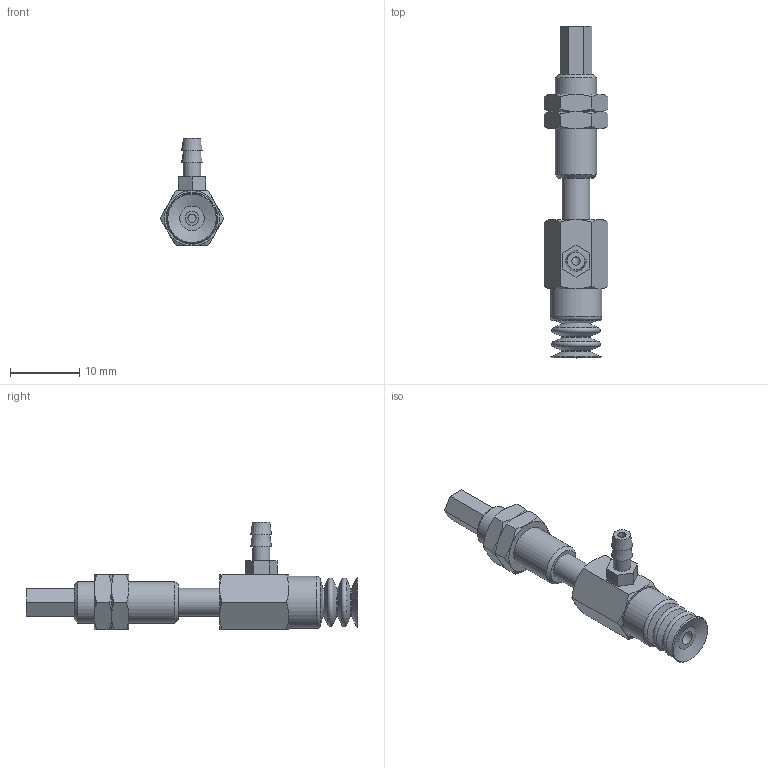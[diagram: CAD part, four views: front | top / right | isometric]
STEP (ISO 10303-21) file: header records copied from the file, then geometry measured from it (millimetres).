
FILE_DESCRIPTION(('STEP AP203'),'1');
FILE_NAME('-T.stp','2025-04-03T06:17:53',(' '),(' '),'Spatial InterOp 3D',' ',' ');
FILE_SCHEMA(('CONFIG_CONTROL_DESIGN'));
Length unit declared in the file: millimetre
Products named in the file (7): BNABPCYS-7-6-※-T; Connector_s-7-6; Nut napc_s-7-6; NAPCTS-7-6-FBODY; NAPCTS-7-6-MBODY; BPCG-7-※; T (2)
Assembly tree (7 placements, depth 2):
  BNABPCYS-7-6-※-T
    Connector_s-7-6
    Nut napc_s-7-6  x2
    NAPCTS-7-6-FBODY
    NAPCTS-7-6-MBODY
    BPCG-7-※
    T (2)
Bounding box: 9.24 x 48 x 15.6 mm (x, y, z)
Volume: 1627 mm3; surface area: 2563.6 mm2
Topology: 7 solids, 7 shells, 157 faces, 324 edges, 192 vertices
Faces by surface type: plane 69, cone 59, cylinder 18, torus 11
Full cylindrical faces by diameter (mm): 1.2 x2, 2 x1, 2.459 x2, 2.5 x1, 3 x2, 4 x4, 5.188 x2, 6 x3, 7.5 x1
Entity records: 3812 total; most frequent: CARTESIAN_POINT 848, DIRECTION 554, ORIENTED_EDGE 452, AXIS2_PLACEMENT_3D 240, EDGE_CURVE 226, EDGE_LOOP 204, FACE_OUTER_BOUND 162, VERTEX_POINT 162
